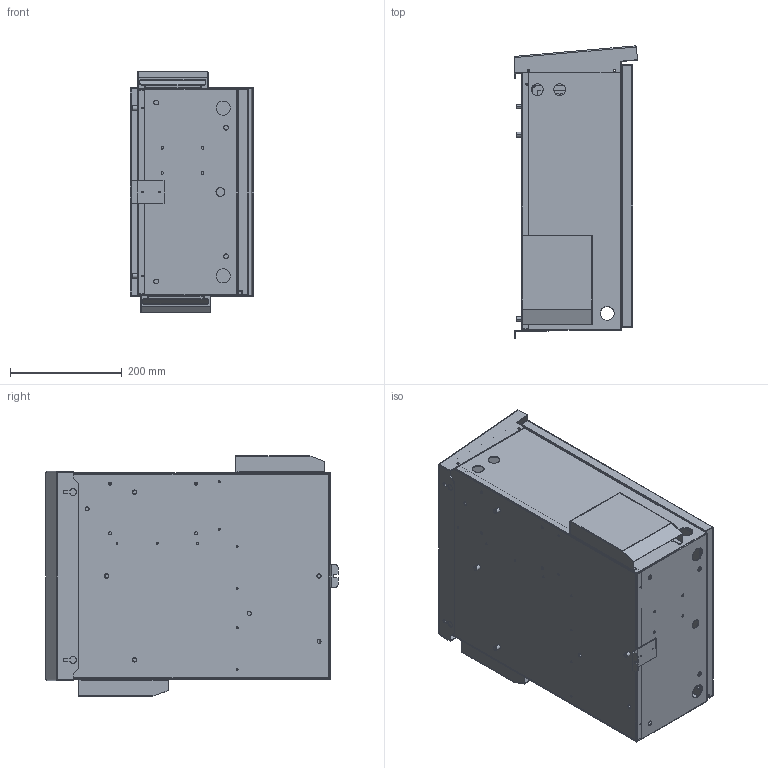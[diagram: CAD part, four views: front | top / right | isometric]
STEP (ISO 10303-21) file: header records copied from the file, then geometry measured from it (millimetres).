
FILE_DESCRIPTION (( 'STEP AP203' ), '1' );
FILE_NAME ('LXV294_TD_00000__001.STEP', '2016-01-11T10:20:54', ( 'Hach Lange' ), ( 'Hach Lange' ), 'SwSTEP 2.0', 'SolidWorks 2015', '' );
FILE_SCHEMA (( 'CONFIG_CONTROL_DESIGN' ));
Length unit declared in the file: millimetre
Products named in the file (12): LXV294_TD_00000__001; HAG155_d11 Dachelement; HAG155_d13 Montagebügel; HAG155_d7 Lüfterrahmen; HAG155_d6 Filterhalter zu Lüfterrahmen; HAG155_d5 Lüfterrahmen komplett; HAG155_d1 Gehäuse komplett gepunktet und gepopt; HAG155_d2 Gehäuse; BAG520_d2 T黵; HAG155_d3 Rückwand; HAA200_d1 Lüfterabdeckung; HAG155_d12 Scharnier
Assembly tree (14 placements, depth 4):
  LXV294_TD_00000__001
    HAG155_d1 Gehäuse komplett gepunktet und gepopt
      HAG155_d2 Gehäuse
      HAG155_d3 Rückwand
      HAG155_d12 Scharnier
      HAG155_d11 Dachelement
      HAG155_d13 Montagebügel
      HAG155_d5 Lüfterrahmen komplett  x2
        HAG155_d7 Lüfterrahmen
        HAG155_d6 Filterhalter zu Lüfterrahmen
    BAG520_d2 T黵
    HAA200_d1 Lüfterabdeckung  x2
Bounding box: 220.18 x 522.55 x 430 mm (x, y, z)
Volume: 1483234.6 mm3; surface area: 2001700 mm2
Topology: 14 solids, 14 shells, 1449 faces, 3831 edges, 2414 vertices
Faces by surface type: cylinder 757, plane 676, bspline 8, cone 8
Entity records: 41001 total; most frequent: DIRECTION 7109, CARTESIAN_POINT 6871, ORIENTED_EDGE 6566, EDGE_CURVE 3283, AXIS2_PLACEMENT_3D 2616, VERTEX_POINT 2090, LINE 1877, VECTOR 1877
